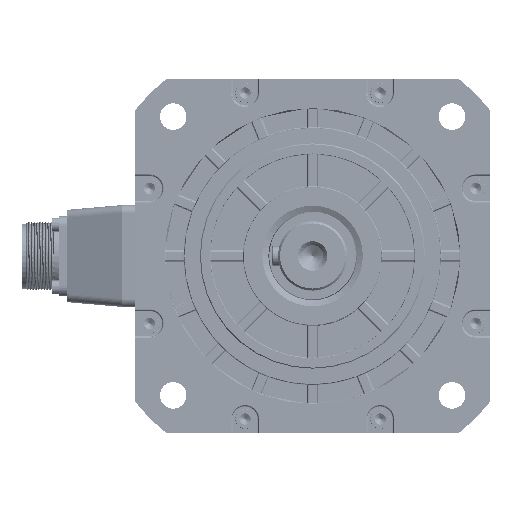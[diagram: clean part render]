
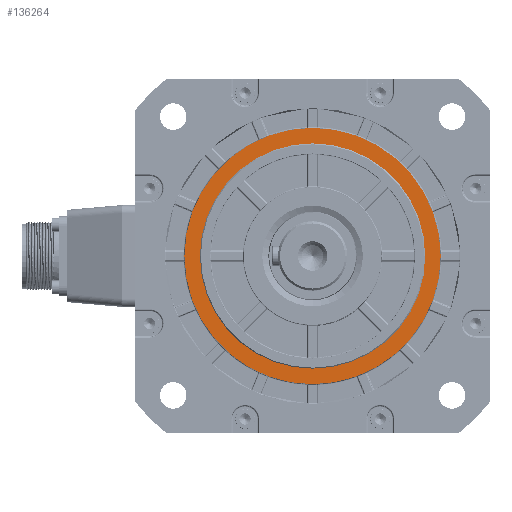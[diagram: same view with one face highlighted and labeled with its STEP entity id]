
A CAD part, left-side view. The second image highlights one B-rep face of the part: STEP entity #136264.
In plain terms, the highlighted planar face has unit normal (-1, 0, 0).
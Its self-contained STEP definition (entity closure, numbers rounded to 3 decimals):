
#116204=CARTESIAN_POINT('',(3.2,0.,0.));
#116205=DIRECTION('',(-1.,0.,0.));
#116206=DIRECTION('',(0.,1.,0.));
#116207=AXIS2_PLACEMENT_3D('',#116204,#116205,#116206);
#116209=CARTESIAN_POINT('',(3.2,0.,0.));
#116210=DIRECTION('',(1.,0.,0.));
#116211=DIRECTION('',(0.,1.,0.));
#116212=AXIS2_PLACEMENT_3D('',#116209,#116210,#116211);
#116254=CARTESIAN_POINT('',(3.2,0.,0.));
#116255=DIRECTION('',(-1.,0.,0.));
#116256=DIRECTION('',(0.,0.,-1.));
#116257=AXIS2_PLACEMENT_3D('',#116254,#116255,#116256);
#116259=CARTESIAN_POINT('',(3.2,0.,0.));
#116260=DIRECTION('',(-1.,0.,0.));
#116261=DIRECTION('',(0.,0.,1.));
#116262=AXIS2_PLACEMENT_3D('',#116259,#116260,#116261);
#124886=CARTESIAN_POINT('',(3.2,57.15,0.));
#124887=CARTESIAN_POINT('',(3.2,-57.15,0.));
#124888=VERTEX_POINT('',#124886);
#124889=VERTEX_POINT('',#124887);
#125106=CARTESIAN_POINT('',(3.2,0.,-65.));
#125107=CARTESIAN_POINT('',(3.2,0.,65.));
#125108=VERTEX_POINT('',#125106);
#125109=VERTEX_POINT('',#125107);
#136247=CARTESIAN_POINT('',(3.2,0.,0.));
#136248=DIRECTION('',(1.,0.,0.));
#136249=DIRECTION('',(0.,-1.,0.));
#136250=AXIS2_PLACEMENT_3D('',#136247,#136248,#136249);
#136251=PLANE('',#136250);
#136253=ORIENTED_EDGE('',*,*,#136252,.F.);
#136255=ORIENTED_EDGE('',*,*,#136254,.F.);
#136256=EDGE_LOOP('',(#136253,#136255));
#136257=FACE_OUTER_BOUND('',#136256,.F.);
#136259=ORIENTED_EDGE('',*,*,#136258,.T.);
#136261=ORIENTED_EDGE('',*,*,#136260,.F.);
#136262=EDGE_LOOP('',(#136259,#136261));
#136263=FACE_BOUND('',#136262,.F.);
#136264=ADVANCED_FACE('',(#136257,#136263),#136251,.F.);
#116208=CIRCLE('',#116207,57.15);
#116213=CIRCLE('',#116212,57.15);
#116258=CIRCLE('',#116257,65.);
#116263=CIRCLE('',#116262,65.);
#136252=EDGE_CURVE('',#125108,#125109,#116258,.T.);
#136254=EDGE_CURVE('',#125109,#125108,#116263,.T.);
#136258=EDGE_CURVE('',#124888,#124889,#116208,.T.);
#136260=EDGE_CURVE('',#124888,#124889,#116213,.T.);
